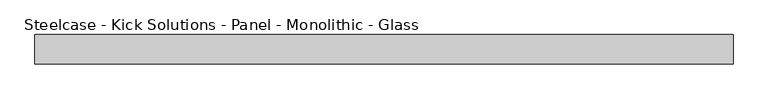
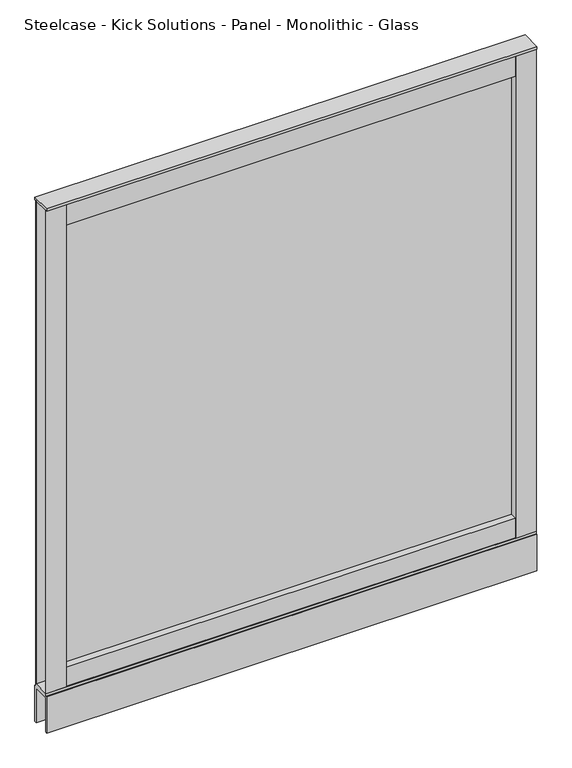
"""IFC4 building model written with IfcOpenShell, lengths in millimetres: furniture geometry, Steelcase - Kick Solutions - Panel - Monolithic - Glass : 54H x 48W."""

from ifc_helpers import new_model, si_unit, frame, origin, place, context, project, spatial, polyline, outline, extrude, source, transform, mapped, element, save


def steelcase_kick_solutions_panel_monolithic_glass_e700a908(model_context):
    return source(origin(), model_context, "Body", "SweptSolid", [
        extrude(outline(polyline([(1168.4006661, -5.08), (1168.4006661, -45.7200015), (50.8006646, -45.7200015), (50.8006646, -5.08), (1168.4006661, -5.08)])), frame((0.0, 0.0, 101.7169049), z_axis=(0.0, 0.0, 1.0), x_axis=(1.0, 0.0, 0.0)), (0.0, 0.0, 1.0), 50.6830951),
        extrude(outline(polyline([(1168.4006661, -5.08), (1168.4006661, -45.7200015), (50.8006646, -45.7200015), (50.8006646, -5.08), (1168.4006661, -5.08)])), frame((0.0, 0.0, 1314.45), z_axis=(0.0, 0.0, 1.0), x_axis=(1.0, 0.0, 0.0)), (0.0, 0.0, 1.0), 57.15),
        extrude(outline(polyline([(50.8006646, -3.1743148), (50.8006646, -47.6243142), (0.0, -47.6243142), (0.0, -45.7200015), (47.7526646, -45.7200015), (47.7526646, -5.08), (0.0, -5.08), (0.0, -3.1743148), (50.8006646, -3.1743148)])), frame((0.0, 0.0, 101.7169049), z_axis=(0.0, 0.0, 1.0), x_axis=(1.0, 0.0, 0.0)), (0.0, 0.0, 1.0), 1269.8830951),
        extrude(outline(polyline([(1168.4006661, -3.1743148), (1219.2, -3.1743148), (1219.2, -5.08), (1171.4486661, -5.08), (1171.4486661, -45.7200015), (1219.2, -45.7200015), (1219.2, -47.6243142), (1168.4006661, -47.6243142), (1168.4006661, -3.1743148)])), frame((0.0, 0.0, 101.7169049), z_axis=(0.0, 0.0, 1.0), x_axis=(1.0, 0.0, 0.0)), (0.0, 0.0, 1.0), 1269.8830951),
        extrude(outline(polyline([(1168.4006661, -28.422537), (50.8006646, -28.422537), (50.8006646, -25.4), (1168.4006661, -25.4), (1168.4006661, -28.422537)])), frame((0.0, 0.0, 152.4), z_axis=(0.0, 0.0, 1.0), x_axis=(1.0, 0.0, 0.0)), (0.0, 0.0, 1.0), 1162.05),
        extrude(outline(polyline([(1219.2, 0.0), (1219.2, -50.8000015), (0.0, -50.8000015), (0.0, 0.0), (1219.2, 0.0)])), frame((0.0, 0.0, 1371.6), z_axis=(0.0, 0.0, 1.0), x_axis=(1.0, 0.0, 0.0)), (0.0, 0.0, 1.0), 6.35),
        extrude(outline(polyline([(0.0, 0.0), (-5.08, 0.0), (-5.08, 90.2869018), (-45.7200015, 90.2869018), (-45.7200015, 0.0), (-50.8000015, 0.0), (-50.8000015, 95.3669018), (-47.6243142, 95.3669018), (-47.6243142, 101.7169049), (-3.1743148, 101.7169049), (-3.1743148, 95.3669018), (0.0, 95.3669018), (0.0, 0.0)])), frame((0.0, 0.0, 0.0), z_axis=(1.0, 0.0, 0.0), x_axis=(0.0, 1.0, 0.0)), (0.0, 0.0, 1.0), 1219.2),
    ])


if __name__ == "__main__":
    model = new_model("IFC4")
    model_context = context("Model", 3, world=origin())
    ifc_project = project(units=[si_unit("LENGTHUNIT", "METRE", prefix="MILLI")], contexts=[model_context])
    site = spatial("IfcSite", under=ifc_project)
    building = spatial("IfcBuilding", under=site)
    placement = place(None, origin())
    steelcase_kick_solutions_panel_monolithic_glass_shape = steelcase_kick_solutions_panel_monolithic_glass_e700a908(model_context)
    element("IfcFurniture", 1, ObjectType="Steelcase - Kick Solutions - Panel - Monolithic - Glass : 54H x 48W", at=placement, inside=building, context=model_context, shape_type="MappedRepresentation", body=[
        mapped(steelcase_kick_solutions_panel_monolithic_glass_shape, transform((0.0, 0.0, 0.0), x_axis=(1.0, 0.0, 0.0), y_axis=(0.0, 1.0, 0.0), z_axis=(0.0, 0.0, 1.0))),
    ])
    save(model, "model.ifc")
